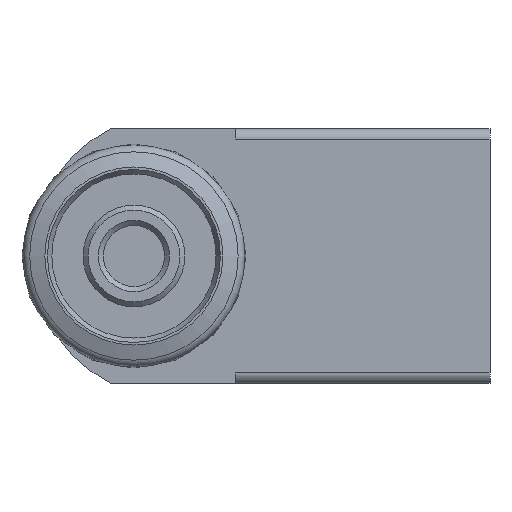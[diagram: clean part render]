
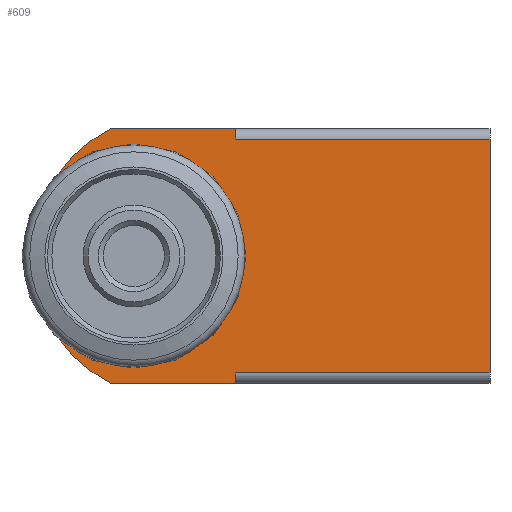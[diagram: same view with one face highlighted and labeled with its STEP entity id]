
A CAD part, left-side view. The second image highlights one B-rep face of the part: STEP entity #609.
In plain terms, the highlighted planar face has unit normal (-1, 0, 0) as drawn and (0, 0, -1) by its records, which use the part's own axes.
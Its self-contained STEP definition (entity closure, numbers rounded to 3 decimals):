
#45=LINE('',#980,#71);
#48=LINE('',#987,#74);
#58=LINE('',#1022,#84);
#59=LINE('',#1025,#85);
#64=LINE('',#1033,#90);
#66=LINE('',#1037,#92);
#69=LINE('',#1043,#95);
#71=VECTOR('',#778,25.);
#74=VECTOR('',#785,1.);
#84=VECTOR('',#817,25.);
#85=VECTOR('',#820,1.);
#90=VECTOR('',#827,12.305);
#92=VECTOR('',#831,12.305);
#95=VECTOR('',#838,23.);
#124=FACE_BOUND('',#227,.T.);
#175=FACE_OUTER_BOUND('',#226,.T.);
#226=EDGE_LOOP('',(#495,#496,#497,#498,#499,#500,#501,#502));
#227=EDGE_LOOP('',(#503));
#286=CIRCLE('',#677,14.);
#287=CIRCLE('',#678,3.05);
#319=VERTEX_POINT('',#976);
#321=VERTEX_POINT('',#979);
#323=VERTEX_POINT('',#985);
#335=VERTEX_POINT('',#1016);
#337=VERTEX_POINT('',#1020);
#338=VERTEX_POINT('',#1024);
#340=VERTEX_POINT('',#1031);
#341=VERTEX_POINT('',#1036);
#343=VERTEX_POINT('',#1044);
#375=EDGE_CURVE('',#319,#321,#45,.T.);
#379=EDGE_CURVE('',#319,#323,#48,.T.);
#395=EDGE_CURVE('',#335,#337,#58,.T.);
#396=EDGE_CURVE('',#338,#335,#59,.T.);
#401=EDGE_CURVE('',#340,#323,#64,.T.);
#403=EDGE_CURVE('',#338,#341,#66,.T.);
#406=EDGE_CURVE('',#341,#340,#286,.T.);
#407=EDGE_CURVE('',#321,#337,#69,.T.);
#408=EDGE_CURVE('',#343,#343,#287,.T.);
#495=ORIENTED_EDGE('',*,*,#375,.F.);
#496=ORIENTED_EDGE('',*,*,#379,.T.);
#497=ORIENTED_EDGE('',*,*,#401,.F.);
#498=ORIENTED_EDGE('',*,*,#406,.F.);
#499=ORIENTED_EDGE('',*,*,#403,.F.);
#500=ORIENTED_EDGE('',*,*,#396,.T.);
#501=ORIENTED_EDGE('',*,*,#395,.T.);
#502=ORIENTED_EDGE('',*,*,#407,.F.);
#503=ORIENTED_EDGE('',*,*,#408,.T.);
#580=PLANE('',#676);
#609=ADVANCED_FACE('',(#175,#124),#580,.F.);
#676=AXIS2_PLACEMENT_3D('',#1041,#834,#835);
#677=AXIS2_PLACEMENT_3D('',#1042,#836,#837);
#678=AXIS2_PLACEMENT_3D('',#1045,#839,#840);
#778=DIRECTION('',(0.,-1.,0.));
#785=DIRECTION('',(-1.,0.,0.));
#817=DIRECTION('',(0.,-1.,0.));
#820=DIRECTION('',(-1.,0.,0.));
#827=DIRECTION('',(0.,-1.,0.));
#831=DIRECTION('',(0.,1.,0.));
#834=DIRECTION('center_axis',(0.,0.,1.));
#835=DIRECTION('ref_axis',(1.,0.,0.));
#836=DIRECTION('center_axis',(0.,0.,1.));
#837=DIRECTION('ref_axis',(-0.893,-0.45,0.));
#838=DIRECTION('',(1.,0.,0.));
#839=DIRECTION('center_axis',(0.,0.,1.));
#840=DIRECTION('ref_axis',(1.,0.,0.));
#976=CARTESIAN_POINT('',(-11.5,-10.,-5.));
#979=CARTESIAN_POINT('',(-11.5,-35.,-5.));
#980=CARTESIAN_POINT('',(-11.5,-35.,-5.));
#985=CARTESIAN_POINT('',(-12.5,-10.,-5.));
#987=CARTESIAN_POINT('',(-6.097,-10.,-5.));
#1016=CARTESIAN_POINT('',(11.5,-10.,-5.));
#1020=CARTESIAN_POINT('',(11.5,-35.,-5.));
#1022=CARTESIAN_POINT('',(11.5,-35.,-5.));
#1024=CARTESIAN_POINT('',(12.5,-10.,-5.));
#1025=CARTESIAN_POINT('',(6.097,-10.,-5.));
#1031=CARTESIAN_POINT('',(-12.5,2.305,-5.));
#1033=CARTESIAN_POINT('',(-12.5,-35.,-5.));
#1036=CARTESIAN_POINT('',(12.5,2.305,-5.));
#1037=CARTESIAN_POINT('',(12.5,2.305,-5.));
#1041=CARTESIAN_POINT('Origin',(0.,-14.433,
-5.));
#1042=CARTESIAN_POINT('Origin',(0.,-4.,-5.));
#1043=CARTESIAN_POINT('',(12.5,-35.,-5.));
#1044=CARTESIAN_POINT('',(-3.05,0.,-5.));
#1045=CARTESIAN_POINT('Origin',(0.,0.,-5.));
